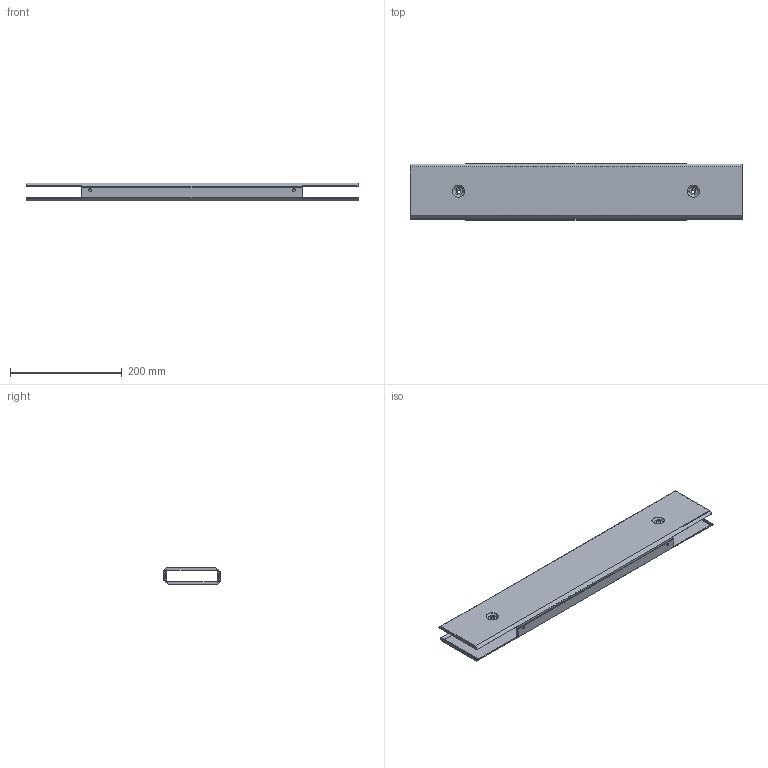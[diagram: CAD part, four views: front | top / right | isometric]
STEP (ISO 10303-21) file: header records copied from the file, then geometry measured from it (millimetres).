
FILE_DESCRIPTION (( 'STEP AP214' ), '1' );
FILE_NAME ('FO-00D-PC-010-060-7021 Êîìïëåêò ïàíåëè öîêîëÿ 100õ600ìì RAL7021 (2 øò.êîìïë.).STEP', '2025-08-21T13:10:09', ( '' ), ( '' ), 'SwSTEP 2.0', 'SolidWorks 2023', '' );
FILE_SCHEMA (( 'AUTOMOTIVE_DESIGN' ));
Length unit declared in the file: millimetre
Products named in the file (2): Панель цоколя 100х600мм; FO-00D-PC-010-060-7021 Комплект панели цоколя 100х600мм RAL7021 (2 шт.компл.)
Assembly tree (2 placements, depth 2):
  FO-00D-PC-010-060-7021 Комплект панели цоколя 100х600мм RAL7021 (2 шт.компл.)
    Панель цоколя 100х600мм  x2
Bounding box: 595 x 101.19 x 31.87 mm (x, y, z)
Volume: 209733.1 mm3; surface area: 304013.3 mm2
Topology: 2 solids, 2 shells, 116 faces, 304 edges, 200 vertices
Faces by surface type: plane 76, cylinder 24, cone 16
Entity records: 1871 total; most frequent: DIRECTION 318, CARTESIAN_POINT 315, ORIENTED_EDGE 304, EDGE_CURVE 152, VECTOR 112, LINE 112, AXIS2_PLACEMENT_3D 103, VERTEX_POINT 100
